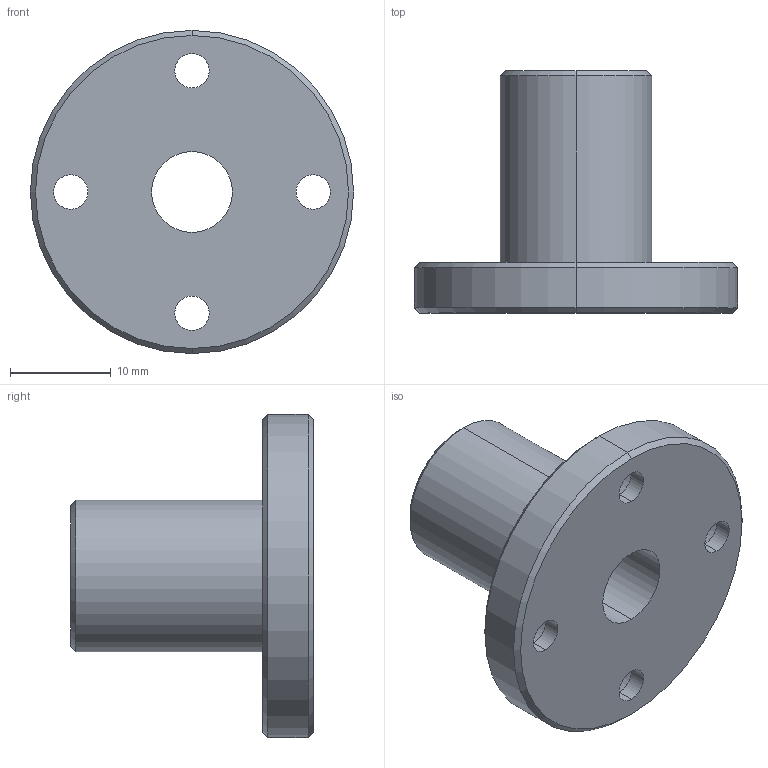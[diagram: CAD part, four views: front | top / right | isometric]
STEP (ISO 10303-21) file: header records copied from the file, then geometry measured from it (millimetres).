
FILE_DESCRIPTION (( 'STEP AP214' ), '1' );
FILE_NAME ('2.7031 Lineaarilaakeri LMF8UU.STEP', '2024-06-18T07:27:20', ( '' ), ( '' ), 'SwSTEP 2.0', 'SolidWorks 2024', '' );
FILE_SCHEMA (( 'AUTOMOTIVE_DESIGN' ));
Length unit declared in the file: millimetre
Products named in the file (1): 2.7031 Lineaarilaakeri LMF8UU
Bounding box: 32 x 24 x 32 mm (x, y, z)
Volume: 5642.1 mm3; surface area: 3705 mm2
Topology: 1 solids, 1 shells, 35 faces, 78 edges, 50 vertices
Faces by surface type: cylinder 22, plane 7, cone 6
Entity records: 1037 total; most frequent: DIRECTION 200, CARTESIAN_POINT 164, ORIENTED_EDGE 156, AXIS2_PLACEMENT_3D 86, EDGE_CURVE 78, VERTEX_POINT 50, EDGE_LOOP 50, CIRCLE 50
